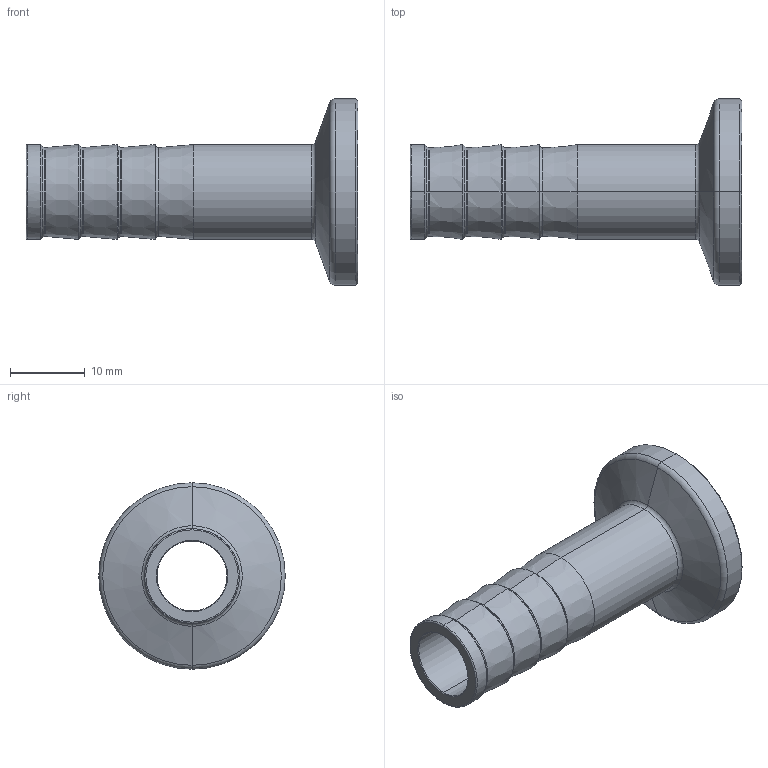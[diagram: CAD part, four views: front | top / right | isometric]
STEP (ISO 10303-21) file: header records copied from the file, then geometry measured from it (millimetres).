
FILE_DESCRIPTION (( 'STEP AP203' ), '1' );
FILE_NAME ('AAV1!2C1--7.STEP', '2025-09-01T04:47:24', ( '' ), ( '' ), 'SwSTEP 2.0', 'SolidWorks 2023', '' );
FILE_SCHEMA (( 'CONFIG_CONTROL_DESIGN' ));
Length unit declared in the file: millimetre
Products named in the file (1): AAV1!2C1--7
Bounding box: 44.5 x 25 x 25 mm (x, y, z)
Volume: 3678.3 mm3; surface area: 4102.7 mm2
Topology: 1 solids, 1 shells, 67 faces, 134 edges, 70 vertices
Faces by surface type: torus 26, cone 26, cylinder 10, plane 3, bspline 2
Entity records: 2119 total; most frequent: CARTESIAN_POINT 616, DIRECTION 352, ORIENTED_EDGE 268, AXIS2_PLACEMENT_3D 158, EDGE_CURVE 134, CIRCLE 92, VERTEX_POINT 70, EDGE_LOOP 70
